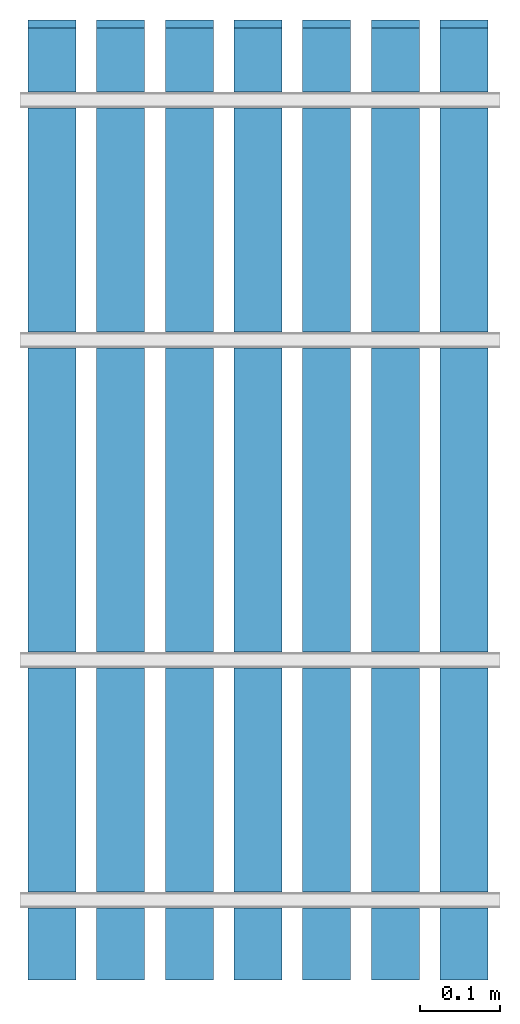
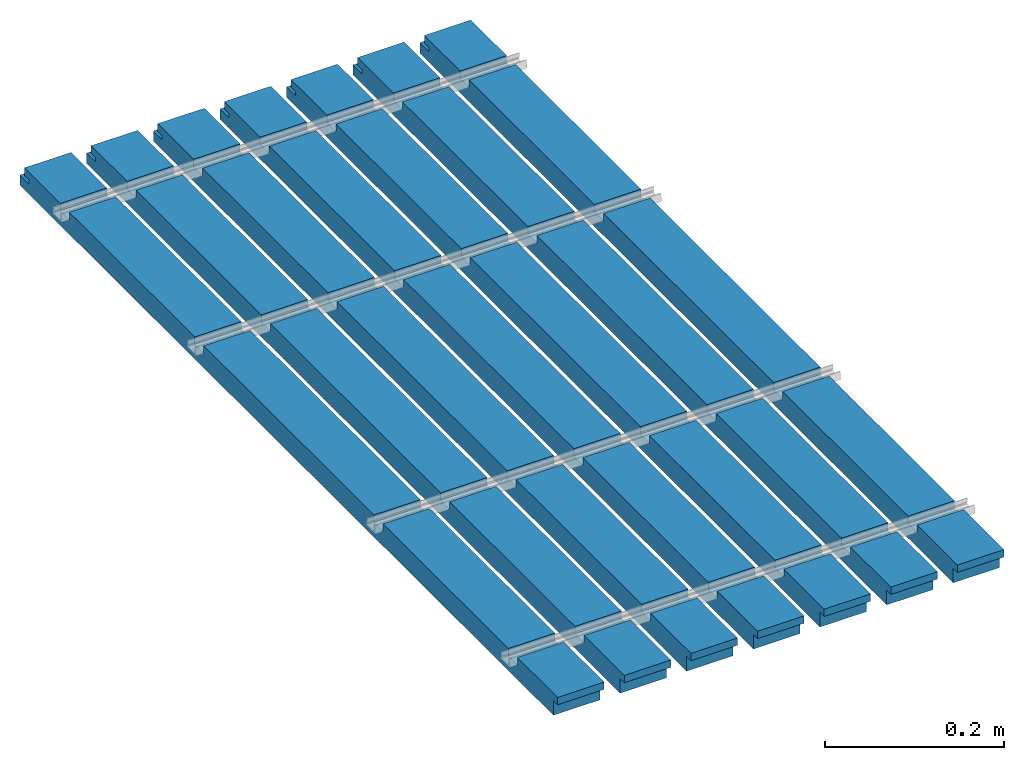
# One storey, part 2 of 2: 7 walls.
"""IFC2X3 building model written with IfcOpenShell, lengths in millimetres."""

from ifc_helpers import new_model, entity, si_unit, converted_unit, money_unit, direction, frame, origin_with_axes, place, context, subcontext, project, spatial, polyline, outline, extrude, boolean, faceted_brep, material, layer, layer_set, layer_usage, type_object, element, save


model = new_model("IFC2X3")

# Units and contexts
model_context = context("Model", 3, precision=1e-05, world=origin_with_axes(), true_north=direction((0.0, 1.0)))
body_context = subcontext(model_context, "Body", "Model", "MODEL_VIEW")
ifc_project = project(units=[si_unit("LENGTHUNIT", "METRE", prefix="MILLI"), si_unit("AREAUNIT", "SQUARE_METRE"), si_unit("VOLUMEUNIT", "CUBIC_METRE"), converted_unit("PLANEANGLEUNIT", "DEGREE", entity("IfcPlaneAngleMeasure", 0.0174532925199), si_unit("PLANEANGLEUNIT", "RADIAN"), dimensions=[0, 0, 0, 0, 0, 0, 0]), si_unit("SOLIDANGLEUNIT", "STERADIAN"), money_unit("AUD"), si_unit("TIMEUNIT", "SECOND"), si_unit("MASSUNIT", "GRAM"), si_unit("THERMODYNAMICTEMPERATUREUNIT", "DEGREE_CELSIUS"), si_unit("LUMINOUSINTENSITYUNIT", "LUMEN")], contexts=[model_context])

# Site, building, storey
site_placement = place(None, origin_with_axes())
site = spatial("IfcSite", under=ifc_project, at=site_placement, Name="Site", CompositionType="ELEMENT")
building_placement = place(site_placement, origin_with_axes())
building = spatial("IfcBuilding", under=site, at=building_placement, Name="Building", CompositionType="ELEMENT")
storey_placement = place(building_placement, origin_with_axes())
storey = spatial("IfcBuildingStorey", under=building, at=storey_placement, Name="GROUND", CompositionType="ELEMENT", Elevation=0.0)

# Walls
ifc_material = material(Name="Timber")
ifc_layer = layer(ifc_material, 60.0, ventilated="UNKNOWN")
ifc_layer_set = layer_set([ifc_layer], Name="Timber 60")
ifc_layer_usage_1 = layer_usage(ifc_layer_set, "AXIS2", "POSITIVE", 0.0)
wall_type = type_object("IfcWallType", Name="Timber 60", PredefinedType="NOTDEFINED")
wall_1_placement = place(storey_placement, frame((72.41, 0.0, 0.0), z_axis=(0.0, 0.0, 1.0), x_axis=(0.0, 1.0, 0.0)))
element("IfcWallStandardCase", 1, at=wall_1_placement, inside=storey, type_object=wall_type, material=ifc_layer_usage_1, Name="WALL-01", context=body_context, shape_type="CSG", body=[
    boolean("DIFFERENCE", boolean("DIFFERENCE", boolean("DIFFERENCE", boolean("DIFFERENCE", boolean("DIFFERENCE", boolean("DIFFERENCE", extrude(outline(polyline([(0.0, 0.0), (1200.0, 0.0), (1200.0, 60.0), (0.0, 60.0), (0.0, 0.0)])), origin_with_axes(), (0.0, 0.0, 1.0), 30.0), faceted_brep([(9.5, 0.0, 20.0), (0.0, 0.0, 20.0), (0.0, 0.0, 0.0), (9.5, 0.0, 0.0), (9.5, 60.0, 20.0), (0.0, 60.0, 20.0), (0.0, 60.0, 0.0), (9.5, 60.0, 0.0)], [[[0, 1, 2, 3]], [[1, 0, 4, 5]], [[1, 5, 6, 2]], [[7, 3, 2, 6]], [[0, 3, 7, 4]], [[4, 7, 6, 5]]])), faceted_brep([(90.0, 0.0, 20.0), (110.0, 0.0, 20.0), (110.0, 0.0, 30.0), (90.0, 0.0, 30.0), (90.0, 60.0, 20.0), (110.0, 60.0, 20.0), (110.0, 60.0, 30.0), (90.0, 60.0, 30.0)], [[[0, 1, 2, 3]], [[1, 0, 4, 5]], [[6, 2, 1, 5]], [[7, 3, 2, 6]], [[0, 3, 7, 4]], [[4, 7, 6, 5]]])), faceted_brep([(390.0, 0.0, 20.0), (410.0, 0.0, 20.0), (410.0, 0.0, 30.0), (390.0, 0.0, 30.0), (390.0, 60.0, 20.0), (410.0, 60.0, 20.0), (410.0, 60.0, 30.0), (390.0, 60.0, 30.0)], [[[0, 1, 2, 3]], [[1, 0, 4, 5]], [[6, 2, 1, 5]], [[7, 3, 2, 6]], [[0, 3, 7, 4]], [[4, 7, 6, 5]]])), faceted_brep([(790.0, 0.0, 20.0), (810.0, 0.0, 20.0), (810.0, 0.0, 30.0), (790.0, 0.0, 30.0), (790.0, 60.0, 20.0), (810.0, 60.0, 20.0), (810.0, 60.0, 30.0), (790.0, 60.0, 30.0)], [[[0, 1, 2, 3]], [[1, 0, 4, 5]], [[6, 2, 1, 5]], [[7, 3, 2, 6]], [[0, 3, 7, 4]], [[4, 7, 6, 5]]])), faceted_brep([(1090.0, 0.0, 20.0), (1110.0, 0.0, 20.0), (1110.0, 0.0, 30.0), (1090.0, 0.0, 30.0), (1090.0, 60.0, 20.0), (1110.0, 60.0, 20.0), (1110.0, 60.0, 30.0), (1090.0, 60.0, 30.0)], [[[0, 1, 2, 3]], [[1, 0, 4, 5]], [[6, 2, 1, 5]], [[7, 3, 2, 6]], [[0, 3, 7, 4]], [[4, 7, 6, 5]]])), faceted_brep([(1180.0, 0.0, 19.5), (1180.0, 0.0, 14.0), (1200.0, 0.0, 14.0), (1200.0, 0.0, 30.0), (1190.0, 0.0, 30.0), (1190.0, 0.0, 19.5), (1180.0, 60.0, 19.5), (1180.0, 60.0, 14.0), (1200.0, 60.0, 14.0), (1200.0, 60.0, 30.0), (1190.0, 60.0, 30.0), (1190.0, 60.0, 19.5)], [[[0, 1, 2, 3, 4, 5]], [[1, 0, 6, 7]], [[8, 2, 1, 7]], [[2, 8, 9, 3]], [[10, 4, 3, 9]], [[5, 4, 10, 11]], [[0, 5, 11, 6]], [[11, 10, 9, 8, 7, 6]]])),
])
ifc_layer_usage_2 = layer_usage(ifc_layer_set, "AXIS2", "POSITIVE", 0.0)
wall_2_placement = place(storey_placement, frame((587.59, 0.0, 0.0), z_axis=(0.0, 0.0, 1.0), x_axis=(0.0, 1.0, 0.0)))
element("IfcWallStandardCase", 2, at=wall_2_placement, inside=storey, type_object=wall_type, material=ifc_layer_usage_2, Name="WALL-01", context=body_context, shape_type="CSG", body=[
    boolean("DIFFERENCE", boolean("DIFFERENCE", boolean("DIFFERENCE", boolean("DIFFERENCE", boolean("DIFFERENCE", boolean("DIFFERENCE", extrude(outline(polyline([(0.0, 0.0), (1200.0, 0.0), (1200.0, 60.0), (0.0, 60.0), (0.0, 0.0)])), origin_with_axes(), (0.0, 0.0, 1.0), 30.0), faceted_brep([(9.5, 0.0, 20.0), (0.0, 0.0, 20.0), (0.0, 0.0, 0.0), (9.5, 0.0, 0.0), (9.5, 60.0, 20.0), (0.0, 60.0, 20.0), (0.0, 60.0, 0.0), (9.5, 60.0, 0.0)], [[[0, 1, 2, 3]], [[1, 0, 4, 5]], [[1, 5, 6, 2]], [[7, 3, 2, 6]], [[0, 3, 7, 4]], [[4, 7, 6, 5]]])), faceted_brep([(90.0, 0.0, 20.0), (110.0, 0.0, 20.0), (110.0, 0.0, 30.0), (90.0, 0.0, 30.0), (90.0, 60.0, 20.0), (110.0, 60.0, 20.0), (110.0, 60.0, 30.0), (90.0, 60.0, 30.0)], [[[0, 1, 2, 3]], [[1, 0, 4, 5]], [[6, 2, 1, 5]], [[7, 3, 2, 6]], [[0, 3, 7, 4]], [[4, 7, 6, 5]]])), faceted_brep([(390.0, 0.0, 20.0), (410.0, 0.0, 20.0), (410.0, 0.0, 30.0), (390.0, 0.0, 30.0), (390.0, 60.0, 20.0), (410.0, 60.0, 20.0), (410.0, 60.0, 30.0), (390.0, 60.0, 30.0)], [[[0, 1, 2, 3]], [[1, 0, 4, 5]], [[6, 2, 1, 5]], [[7, 3, 2, 6]], [[0, 3, 7, 4]], [[4, 7, 6, 5]]])), faceted_brep([(790.0, 0.0, 20.0), (810.0, 0.0, 20.0), (810.0, 0.0, 30.0), (790.0, 0.0, 30.0), (790.0, 60.0, 20.0), (810.0, 60.0, 20.0), (810.0, 60.0, 30.0), (790.0, 60.0, 30.0)], [[[0, 1, 2, 3]], [[1, 0, 4, 5]], [[6, 2, 1, 5]], [[7, 3, 2, 6]], [[0, 3, 7, 4]], [[4, 7, 6, 5]]])), faceted_brep([(1090.0, 0.0, 20.0), (1110.0, 0.0, 20.0), (1110.0, 0.0, 30.0), (1090.0, 0.0, 30.0), (1090.0, 60.0, 20.0), (1110.0, 60.0, 20.0), (1110.0, 60.0, 30.0), (1090.0, 60.0, 30.0)], [[[0, 1, 2, 3]], [[1, 0, 4, 5]], [[6, 2, 1, 5]], [[7, 3, 2, 6]], [[0, 3, 7, 4]], [[4, 7, 6, 5]]])), faceted_brep([(1180.0, 0.0, 19.5), (1180.0, 0.0, 14.0), (1200.0, 0.0, 14.0), (1200.0, 0.0, 30.0), (1190.0, 0.0, 30.0), (1190.0, 0.0, 19.5), (1180.0, 60.0, 19.5), (1180.0, 60.0, 14.0), (1200.0, 60.0, 14.0), (1200.0, 60.0, 30.0), (1190.0, 60.0, 30.0), (1190.0, 60.0, 19.5)], [[[0, 1, 2, 3, 4, 5]], [[1, 0, 6, 7]], [[8, 2, 1, 7]], [[2, 8, 9, 3]], [[10, 4, 3, 9]], [[5, 4, 10, 11]], [[0, 5, 11, 6]], [[11, 10, 9, 8, 7, 6]]])),
])
ifc_layer_usage_3 = layer_usage(ifc_layer_set, "AXIS2", "POSITIVE", 0.0)
wall_3_placement = place(storey_placement, frame((501.726666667, 0.0, 0.0), z_axis=(0.0, 0.0, 1.0), x_axis=(0.0, 1.0, 0.0)))
element("IfcWallStandardCase", 3, at=wall_3_placement, inside=storey, type_object=wall_type, material=ifc_layer_usage_3, Name="WALL-01", context=body_context, shape_type="CSG", body=[
    boolean("DIFFERENCE", boolean("DIFFERENCE", boolean("DIFFERENCE", boolean("DIFFERENCE", boolean("DIFFERENCE", boolean("DIFFERENCE", extrude(outline(polyline([(0.0, 0.0), (1200.0, 0.0), (1200.0, 60.0), (0.0, 60.0), (0.0, 0.0)])), origin_with_axes(), (0.0, 0.0, 1.0), 30.0), faceted_brep([(9.5, 0.0, 20.0), (0.0, 0.0, 20.0), (0.0, 0.0, 0.0), (9.5, 0.0, 0.0), (9.5, 60.0, 20.0), (0.0, 60.0, 20.0), (0.0, 60.0, 0.0), (9.5, 60.0, 0.0)], [[[0, 1, 2, 3]], [[1, 0, 4, 5]], [[1, 5, 6, 2]], [[7, 3, 2, 6]], [[0, 3, 7, 4]], [[4, 7, 6, 5]]])), faceted_brep([(90.0, 0.0, 20.0), (110.0, 0.0, 20.0), (110.0, 0.0, 30.0), (90.0, 0.0, 30.0), (90.0, 60.0, 20.0), (110.0, 60.0, 20.0), (110.0, 60.0, 30.0), (90.0, 60.0, 30.0)], [[[0, 1, 2, 3]], [[1, 0, 4, 5]], [[6, 2, 1, 5]], [[7, 3, 2, 6]], [[0, 3, 7, 4]], [[4, 7, 6, 5]]])), faceted_brep([(390.0, 0.0, 20.0), (410.0, 0.0, 20.0), (410.0, 0.0, 30.0), (390.0, 0.0, 30.0), (390.0, 60.0, 20.0), (410.0, 60.0, 20.0), (410.0, 60.0, 30.0), (390.0, 60.0, 30.0)], [[[0, 1, 2, 3]], [[1, 0, 4, 5]], [[6, 2, 1, 5]], [[7, 3, 2, 6]], [[0, 3, 7, 4]], [[4, 7, 6, 5]]])), faceted_brep([(790.0, 0.0, 20.0), (810.0, 0.0, 20.0), (810.0, 0.0, 30.0), (790.0, 0.0, 30.0), (790.0, 60.0, 20.0), (810.0, 60.0, 20.0), (810.0, 60.0, 30.0), (790.0, 60.0, 30.0)], [[[0, 1, 2, 3]], [[1, 0, 4, 5]], [[6, 2, 1, 5]], [[7, 3, 2, 6]], [[0, 3, 7, 4]], [[4, 7, 6, 5]]])), faceted_brep([(1090.0, 0.0, 20.0), (1110.0, 0.0, 20.0), (1110.0, 0.0, 30.0), (1090.0, 0.0, 30.0), (1090.0, 60.0, 20.0), (1110.0, 60.0, 20.0), (1110.0, 60.0, 30.0), (1090.0, 60.0, 30.0)], [[[0, 1, 2, 3]], [[1, 0, 4, 5]], [[6, 2, 1, 5]], [[7, 3, 2, 6]], [[0, 3, 7, 4]], [[4, 7, 6, 5]]])), faceted_brep([(1180.0, 0.0, 19.5), (1180.0, 0.0, 14.0), (1200.0, 0.0, 14.0), (1200.0, 0.0, 30.0), (1190.0, 0.0, 30.0), (1190.0, 0.0, 19.5), (1180.0, 60.0, 19.5), (1180.0, 60.0, 14.0), (1200.0, 60.0, 14.0), (1200.0, 60.0, 30.0), (1190.0, 60.0, 30.0), (1190.0, 60.0, 19.5)], [[[0, 1, 2, 3, 4, 5]], [[1, 0, 6, 7]], [[8, 2, 1, 7]], [[2, 8, 9, 3]], [[10, 4, 3, 9]], [[5, 4, 10, 11]], [[0, 5, 11, 6]], [[11, 10, 9, 8, 7, 6]]])),
])
ifc_layer_usage_4 = layer_usage(ifc_layer_set, "AXIS2", "POSITIVE", 0.0)
wall_4_placement = place(storey_placement, frame((415.863333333, 0.0, 0.0), z_axis=(0.0, 0.0, 1.0), x_axis=(0.0, 1.0, 0.0)))
element("IfcWallStandardCase", 4, at=wall_4_placement, inside=storey, type_object=wall_type, material=ifc_layer_usage_4, Name="WALL-01", context=body_context, shape_type="CSG", body=[
    boolean("DIFFERENCE", boolean("DIFFERENCE", boolean("DIFFERENCE", boolean("DIFFERENCE", boolean("DIFFERENCE", boolean("DIFFERENCE", extrude(outline(polyline([(0.0, 0.0), (1200.0, 0.0), (1200.0, 60.0), (0.0, 60.0), (0.0, 0.0)])), origin_with_axes(), (0.0, 0.0, 1.0), 30.0), faceted_brep([(9.5, 0.0, 20.0), (0.0, 0.0, 20.0), (0.0, 0.0, 0.0), (9.5, 0.0, 0.0), (9.5, 60.0, 20.0), (0.0, 60.0, 20.0), (0.0, 60.0, 0.0), (9.5, 60.0, 0.0)], [[[0, 1, 2, 3]], [[1, 0, 4, 5]], [[1, 5, 6, 2]], [[7, 3, 2, 6]], [[0, 3, 7, 4]], [[4, 7, 6, 5]]])), faceted_brep([(90.0, 0.0, 20.0), (110.0, 0.0, 20.0), (110.0, 0.0, 30.0), (90.0, 0.0, 30.0), (90.0, 60.0, 20.0), (110.0, 60.0, 20.0), (110.0, 60.0, 30.0), (90.0, 60.0, 30.0)], [[[0, 1, 2, 3]], [[1, 0, 4, 5]], [[6, 2, 1, 5]], [[7, 3, 2, 6]], [[0, 3, 7, 4]], [[4, 7, 6, 5]]])), faceted_brep([(390.0, 0.0, 20.0), (410.0, 0.0, 20.0), (410.0, 0.0, 30.0), (390.0, 0.0, 30.0), (390.0, 60.0, 20.0), (410.0, 60.0, 20.0), (410.0, 60.0, 30.0), (390.0, 60.0, 30.0)], [[[0, 1, 2, 3]], [[1, 0, 4, 5]], [[6, 2, 1, 5]], [[7, 3, 2, 6]], [[0, 3, 7, 4]], [[4, 7, 6, 5]]])), faceted_brep([(790.0, 0.0, 20.0), (810.0, 0.0, 20.0), (810.0, 0.0, 30.0), (790.0, 0.0, 30.0), (790.0, 60.0, 20.0), (810.0, 60.0, 20.0), (810.0, 60.0, 30.0), (790.0, 60.0, 30.0)], [[[0, 1, 2, 3]], [[1, 0, 4, 5]], [[6, 2, 1, 5]], [[7, 3, 2, 6]], [[0, 3, 7, 4]], [[4, 7, 6, 5]]])), faceted_brep([(1090.0, 0.0, 20.0), (1110.0, 0.0, 20.0), (1110.0, 0.0, 30.0), (1090.0, 0.0, 30.0), (1090.0, 60.0, 20.0), (1110.0, 60.0, 20.0), (1110.0, 60.0, 30.0), (1090.0, 60.0, 30.0)], [[[0, 1, 2, 3]], [[1, 0, 4, 5]], [[6, 2, 1, 5]], [[7, 3, 2, 6]], [[0, 3, 7, 4]], [[4, 7, 6, 5]]])), faceted_brep([(1180.0, 0.0, 19.5), (1180.0, 0.0, 14.0), (1200.0, 0.0, 14.0), (1200.0, 0.0, 30.0), (1190.0, 0.0, 30.0), (1190.0, 0.0, 19.5), (1180.0, 60.0, 19.5), (1180.0, 60.0, 14.0), (1200.0, 60.0, 14.0), (1200.0, 60.0, 30.0), (1190.0, 60.0, 30.0), (1190.0, 60.0, 19.5)], [[[0, 1, 2, 3, 4, 5]], [[1, 0, 6, 7]], [[8, 2, 1, 7]], [[2, 8, 9, 3]], [[10, 4, 3, 9]], [[5, 4, 10, 11]], [[0, 5, 11, 6]], [[11, 10, 9, 8, 7, 6]]])),
])
ifc_layer_usage_5 = layer_usage(ifc_layer_set, "AXIS2", "POSITIVE", 0.0)
wall_5_placement = place(storey_placement, frame((330.0, 0.0, 0.0), z_axis=(0.0, 0.0, 1.0), x_axis=(0.0, 1.0, 0.0)))
element("IfcWallStandardCase", 5, at=wall_5_placement, inside=storey, type_object=wall_type, material=ifc_layer_usage_5, Name="WALL-01", context=body_context, shape_type="CSG", body=[
    boolean("DIFFERENCE", boolean("DIFFERENCE", boolean("DIFFERENCE", boolean("DIFFERENCE", boolean("DIFFERENCE", boolean("DIFFERENCE", extrude(outline(polyline([(0.0, 0.0), (1200.0, 0.0), (1200.0, 60.0), (0.0, 60.0), (0.0, 0.0)])), origin_with_axes(), (0.0, 0.0, 1.0), 30.0), faceted_brep([(9.5, 0.0, 20.0), (0.0, 0.0, 20.0), (0.0, 0.0, 0.0), (9.5, 0.0, 0.0), (9.5, 60.0, 20.0), (0.0, 60.0, 20.0), (0.0, 60.0, 0.0), (9.5, 60.0, 0.0)], [[[0, 1, 2, 3]], [[1, 0, 4, 5]], [[1, 5, 6, 2]], [[7, 3, 2, 6]], [[0, 3, 7, 4]], [[4, 7, 6, 5]]])), faceted_brep([(90.0, 0.0, 20.0), (110.0, 0.0, 20.0), (110.0, 0.0, 30.0), (90.0, 0.0, 30.0), (90.0, 60.0, 20.0), (110.0, 60.0, 20.0), (110.0, 60.0, 30.0), (90.0, 60.0, 30.0)], [[[0, 1, 2, 3]], [[1, 0, 4, 5]], [[6, 2, 1, 5]], [[7, 3, 2, 6]], [[0, 3, 7, 4]], [[4, 7, 6, 5]]])), faceted_brep([(390.0, 0.0, 20.0), (410.0, 0.0, 20.0), (410.0, 0.0, 30.0), (390.0, 0.0, 30.0), (390.0, 60.0, 20.0), (410.0, 60.0, 20.0), (410.0, 60.0, 30.0), (390.0, 60.0, 30.0)], [[[0, 1, 2, 3]], [[1, 0, 4, 5]], [[6, 2, 1, 5]], [[7, 3, 2, 6]], [[0, 3, 7, 4]], [[4, 7, 6, 5]]])), faceted_brep([(790.0, 0.0, 20.0), (810.0, 0.0, 20.0), (810.0, 0.0, 30.0), (790.0, 0.0, 30.0), (790.0, 60.0, 20.0), (810.0, 60.0, 20.0), (810.0, 60.0, 30.0), (790.0, 60.0, 30.0)], [[[0, 1, 2, 3]], [[1, 0, 4, 5]], [[6, 2, 1, 5]], [[7, 3, 2, 6]], [[0, 3, 7, 4]], [[4, 7, 6, 5]]])), faceted_brep([(1090.0, 0.0, 20.0), (1110.0, 0.0, 20.0), (1110.0, 0.0, 30.0), (1090.0, 0.0, 30.0), (1090.0, 60.0, 20.0), (1110.0, 60.0, 20.0), (1110.0, 60.0, 30.0), (1090.0, 60.0, 30.0)], [[[0, 1, 2, 3]], [[1, 0, 4, 5]], [[6, 2, 1, 5]], [[7, 3, 2, 6]], [[0, 3, 7, 4]], [[4, 7, 6, 5]]])), faceted_brep([(1180.0, 0.0, 19.5), (1180.0, 0.0, 14.0), (1200.0, 0.0, 14.0), (1200.0, 0.0, 30.0), (1190.0, 0.0, 30.0), (1190.0, 0.0, 19.5), (1180.0, 60.0, 19.5), (1180.0, 60.0, 14.0), (1200.0, 60.0, 14.0), (1200.0, 60.0, 30.0), (1190.0, 60.0, 30.0), (1190.0, 60.0, 19.5)], [[[0, 1, 2, 3, 4, 5]], [[1, 0, 6, 7]], [[8, 2, 1, 7]], [[2, 8, 9, 3]], [[10, 4, 3, 9]], [[5, 4, 10, 11]], [[0, 5, 11, 6]], [[11, 10, 9, 8, 7, 6]]])),
])
ifc_layer_usage_6 = layer_usage(ifc_layer_set, "AXIS2", "POSITIVE", 0.0)
wall_6_placement = place(storey_placement, frame((244.136666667, 0.0, 0.0), z_axis=(0.0, 0.0, 1.0), x_axis=(0.0, 1.0, 0.0)))
element("IfcWallStandardCase", 6, at=wall_6_placement, inside=storey, type_object=wall_type, material=ifc_layer_usage_6, Name="WALL-01", context=body_context, shape_type="CSG", body=[
    boolean("DIFFERENCE", boolean("DIFFERENCE", boolean("DIFFERENCE", boolean("DIFFERENCE", boolean("DIFFERENCE", boolean("DIFFERENCE", extrude(outline(polyline([(0.0, 0.0), (1200.0, 0.0), (1200.0, 60.0), (0.0, 60.0), (0.0, 0.0)])), origin_with_axes(), (0.0, 0.0, 1.0), 30.0), faceted_brep([(9.5, 0.0, 20.0), (0.0, 0.0, 20.0), (0.0, 0.0, 0.0), (9.5, 0.0, 0.0), (9.5, 60.0, 20.0), (0.0, 60.0, 20.0), (0.0, 60.0, 0.0), (9.5, 60.0, 0.0)], [[[0, 1, 2, 3]], [[1, 0, 4, 5]], [[1, 5, 6, 2]], [[7, 3, 2, 6]], [[0, 3, 7, 4]], [[4, 7, 6, 5]]])), faceted_brep([(90.0, 0.0, 20.0), (110.0, 0.0, 20.0), (110.0, 0.0, 30.0), (90.0, 0.0, 30.0), (90.0, 60.0, 20.0), (110.0, 60.0, 20.0), (110.0, 60.0, 30.0), (90.0, 60.0, 30.0)], [[[0, 1, 2, 3]], [[1, 0, 4, 5]], [[6, 2, 1, 5]], [[7, 3, 2, 6]], [[0, 3, 7, 4]], [[4, 7, 6, 5]]])), faceted_brep([(390.0, 0.0, 20.0), (410.0, 0.0, 20.0), (410.0, 0.0, 30.0), (390.0, 0.0, 30.0), (390.0, 60.0, 20.0), (410.0, 60.0, 20.0), (410.0, 60.0, 30.0), (390.0, 60.0, 30.0)], [[[0, 1, 2, 3]], [[1, 0, 4, 5]], [[6, 2, 1, 5]], [[7, 3, 2, 6]], [[0, 3, 7, 4]], [[4, 7, 6, 5]]])), faceted_brep([(790.0, 0.0, 20.0), (810.0, 0.0, 20.0), (810.0, 0.0, 30.0), (790.0, 0.0, 30.0), (790.0, 60.0, 20.0), (810.0, 60.0, 20.0), (810.0, 60.0, 30.0), (790.0, 60.0, 30.0)], [[[0, 1, 2, 3]], [[1, 0, 4, 5]], [[6, 2, 1, 5]], [[7, 3, 2, 6]], [[0, 3, 7, 4]], [[4, 7, 6, 5]]])), faceted_brep([(1090.0, 0.0, 20.0), (1110.0, 0.0, 20.0), (1110.0, 0.0, 30.0), (1090.0, 0.0, 30.0), (1090.0, 60.0, 20.0), (1110.0, 60.0, 20.0), (1110.0, 60.0, 30.0), (1090.0, 60.0, 30.0)], [[[0, 1, 2, 3]], [[1, 0, 4, 5]], [[6, 2, 1, 5]], [[7, 3, 2, 6]], [[0, 3, 7, 4]], [[4, 7, 6, 5]]])), faceted_brep([(1180.0, 0.0, 19.5), (1180.0, 0.0, 14.0), (1200.0, 0.0, 14.0), (1200.0, 0.0, 30.0), (1190.0, 0.0, 30.0), (1190.0, 0.0, 19.5), (1180.0, 60.0, 19.5), (1180.0, 60.0, 14.0), (1200.0, 60.0, 14.0), (1200.0, 60.0, 30.0), (1190.0, 60.0, 30.0), (1190.0, 60.0, 19.5)], [[[0, 1, 2, 3, 4, 5]], [[1, 0, 6, 7]], [[8, 2, 1, 7]], [[2, 8, 9, 3]], [[10, 4, 3, 9]], [[5, 4, 10, 11]], [[0, 5, 11, 6]], [[11, 10, 9, 8, 7, 6]]])),
])
ifc_layer_usage_7 = layer_usage(ifc_layer_set, "AXIS2", "POSITIVE", 0.0)
wall_7_placement = place(storey_placement, frame((158.273333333, 0.0, 0.0), z_axis=(0.0, 0.0, 1.0), x_axis=(0.0, 1.0, 0.0)))
element("IfcWallStandardCase", 7, at=wall_7_placement, inside=storey, type_object=wall_type, material=ifc_layer_usage_7, Name="WALL-01", context=body_context, shape_type="CSG", body=[
    boolean("DIFFERENCE", boolean("DIFFERENCE", boolean("DIFFERENCE", boolean("DIFFERENCE", boolean("DIFFERENCE", boolean("DIFFERENCE", extrude(outline(polyline([(0.0, 0.0), (1200.0, 0.0), (1200.0, 60.0), (0.0, 60.0), (0.0, 0.0)])), origin_with_axes(), (0.0, 0.0, 1.0), 30.0), faceted_brep([(9.5, 0.0, 20.0), (0.0, 0.0, 20.0), (0.0, 0.0, 0.0), (9.5, 0.0, 0.0), (9.5, 60.0, 20.0), (0.0, 60.0, 20.0), (0.0, 60.0, 0.0), (9.5, 60.0, 0.0)], [[[0, 1, 2, 3]], [[1, 0, 4, 5]], [[1, 5, 6, 2]], [[7, 3, 2, 6]], [[0, 3, 7, 4]], [[4, 7, 6, 5]]])), faceted_brep([(90.0, 0.0, 20.0), (110.0, 0.0, 20.0), (110.0, 0.0, 30.0), (90.0, 0.0, 30.0), (90.0, 60.0, 20.0), (110.0, 60.0, 20.0), (110.0, 60.0, 30.0), (90.0, 60.0, 30.0)], [[[0, 1, 2, 3]], [[1, 0, 4, 5]], [[6, 2, 1, 5]], [[7, 3, 2, 6]], [[0, 3, 7, 4]], [[4, 7, 6, 5]]])), faceted_brep([(390.0, 0.0, 20.0), (410.0, 0.0, 20.0), (410.0, 0.0, 30.0), (390.0, 0.0, 30.0), (390.0, 60.0, 20.0), (410.0, 60.0, 20.0), (410.0, 60.0, 30.0), (390.0, 60.0, 30.0)], [[[0, 1, 2, 3]], [[1, 0, 4, 5]], [[6, 2, 1, 5]], [[7, 3, 2, 6]], [[0, 3, 7, 4]], [[4, 7, 6, 5]]])), faceted_brep([(790.0, 0.0, 20.0), (810.0, 0.0, 20.0), (810.0, 0.0, 30.0), (790.0, 0.0, 30.0), (790.0, 60.0, 20.0), (810.0, 60.0, 20.0), (810.0, 60.0, 30.0), (790.0, 60.0, 30.0)], [[[0, 1, 2, 3]], [[1, 0, 4, 5]], [[6, 2, 1, 5]], [[7, 3, 2, 6]], [[0, 3, 7, 4]], [[4, 7, 6, 5]]])), faceted_brep([(1090.0, 0.0, 20.0), (1110.0, 0.0, 20.0), (1110.0, 0.0, 30.0), (1090.0, 0.0, 30.0), (1090.0, 60.0, 20.0), (1110.0, 60.0, 20.0), (1110.0, 60.0, 30.0), (1090.0, 60.0, 30.0)], [[[0, 1, 2, 3]], [[1, 0, 4, 5]], [[6, 2, 1, 5]], [[7, 3, 2, 6]], [[0, 3, 7, 4]], [[4, 7, 6, 5]]])), faceted_brep([(1180.0, 0.0, 19.5), (1180.0, 0.0, 14.0), (1200.0, 0.0, 14.0), (1200.0, 0.0, 30.0), (1190.0, 0.0, 30.0), (1190.0, 0.0, 19.5), (1180.0, 60.0, 19.5), (1180.0, 60.0, 14.0), (1200.0, 60.0, 14.0), (1200.0, 60.0, 30.0), (1190.0, 60.0, 30.0), (1190.0, 60.0, 19.5)], [[[0, 1, 2, 3, 4, 5]], [[1, 0, 6, 7]], [[8, 2, 1, 7]], [[2, 8, 9, 3]], [[10, 4, 3, 9]], [[5, 4, 10, 11]], [[0, 5, 11, 6]], [[11, 10, 9, 8, 7, 6]]])),
])

save(model, "model.ifc")
